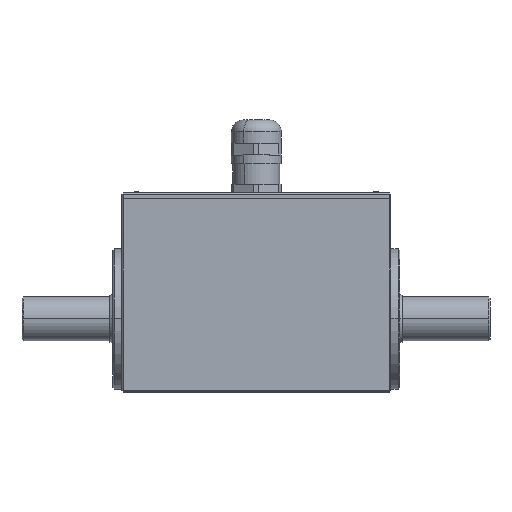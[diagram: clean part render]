
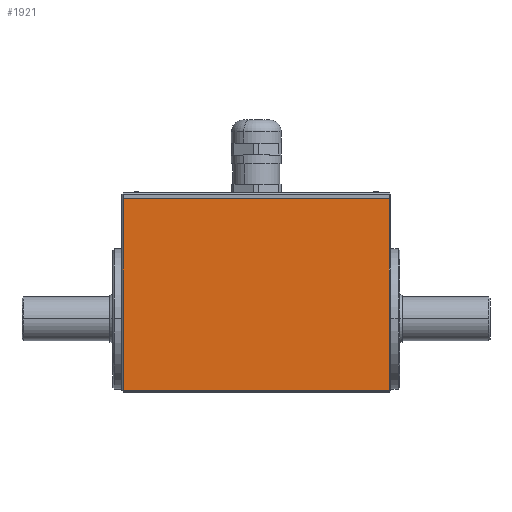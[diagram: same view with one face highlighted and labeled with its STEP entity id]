
A CAD part, top view. The second image highlights one B-rep face of the part: STEP entity #1921.
In plain terms, the highlighted planar face has unit normal (0, 0, 1).
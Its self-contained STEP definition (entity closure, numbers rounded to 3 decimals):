
#166 = DIRECTION ( 'NONE',  ( 0., 0., 1. ) ) ;
#387 = ORIENTED_EDGE ( 'NONE', *, *, #3143, .T. ) ;
#778 = VERTEX_POINT ( 'NONE', #4705 ) ;
#1064 = LINE ( 'NONE', #2700, #3824 ) ;
#1375 = VECTOR ( 'NONE', #4852, 1000. ) ;
#1897 = CARTESIAN_POINT ( 'NONE',  ( -125.4, 41., 25. ) ) ;
#1916 = ORIENTED_EDGE ( 'NONE', *, *, #6159, .T. ) ;
#1921 = ADVANCED_FACE ( 'NONE', ( #5426 ), #3663, .T. ) ;
#2278 = VECTOR ( 'NONE', #7470, 1000. ) ;
#2700 = CARTESIAN_POINT ( 'NONE',  ( -125.9, 41., 25. ) ) ;
#2875 = CARTESIAN_POINT ( 'NONE',  ( -125.4, -25., 25. ) ) ;
#2922 = LINE ( 'NONE', #4262, #1375 ) ;
#3143 = EDGE_CURVE ( 'NONE', #5916, #5362, #4465, .T. ) ;
#3278 = DIRECTION ( 'NONE',  ( 1., 0., 0. ) ) ;
#3427 = EDGE_CURVE ( 'NONE', #4112, #778, #5940, .T. ) ;
#3663 = PLANE ( 'NONE',  #6633 ) ;
#3824 = VECTOR ( 'NONE', #3278, 1000. ) ;
#3867 = EDGE_CURVE ( 'NONE', #5916, #778, #1064, .T. ) ;
#4112 = VERTEX_POINT ( 'NONE', #5806 ) ;
#4249 = DIRECTION ( 'NONE',  ( 0., -1., 0. ) ) ;
#4262 = CARTESIAN_POINT ( 'NONE',  ( -125.9, -24.5, 25. ) ) ;
#4272 = ORIENTED_EDGE ( 'NONE', *, *, #3427, .T. ) ;
#4465 = LINE ( 'NONE', #2875, #7412 ) ;
#4705 = CARTESIAN_POINT ( 'NONE',  ( -34.4, 41., 25. ) ) ;
#4852 = DIRECTION ( 'NONE',  ( 1., 0., 0. ) ) ;
#5214 = DIRECTION ( 'NONE',  ( 0., -1., 0. ) ) ;
#5362 = VERTEX_POINT ( 'NONE', #5387 ) ;
#5387 = CARTESIAN_POINT ( 'NONE',  ( -125.4, -24.5, 25. ) ) ;
#5426 = FACE_OUTER_BOUND ( 'NONE', #5661, .T. ) ;
#5661 = EDGE_LOOP ( 'NONE', ( #1916, #4272, #6817, #387 ) ) ;
#5806 = CARTESIAN_POINT ( 'NONE',  ( -34.4, -24.5, 25. ) ) ;
#5916 = VERTEX_POINT ( 'NONE', #1897 ) ;
#5940 = LINE ( 'NONE', #6883, #2278 ) ;
#6001 = CARTESIAN_POINT ( 'NONE',  ( -125.9, 41., 25. ) ) ;
#6159 = EDGE_CURVE ( 'NONE', #5362, #4112, #2922, .T. ) ;
#6633 = AXIS2_PLACEMENT_3D ( 'NONE', #6001, #166, #4249 ) ;
#6817 = ORIENTED_EDGE ( 'NONE', *, *, #3867, .F. ) ;
#6883 = CARTESIAN_POINT ( 'NONE',  ( -34.4, 41., 25. ) ) ;
#7412 = VECTOR ( 'NONE', #5214, 1000. ) ;
#7470 = DIRECTION ( 'NONE',  ( 0., 1., 0. ) ) ;
